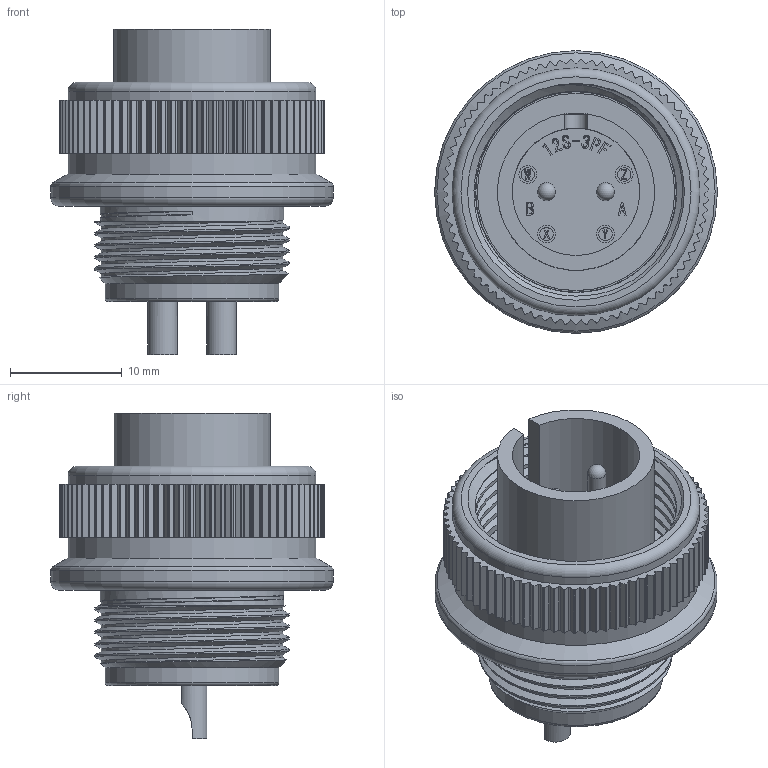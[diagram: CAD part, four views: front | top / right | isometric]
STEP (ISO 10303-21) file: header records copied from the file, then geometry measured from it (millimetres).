
FILE_DESCRIPTION (( 'STEP AP203' ), '1' );
FILE_NAME ('DMS3106A12S-3P(D190).STEP', '2021-02-02T09:47:28', ( '' ), ( '' ), 'SwSTEP 2.0', 'SolidWorks 2018', '' );
FILE_SCHEMA (( 'CONFIG_CONTROL_DESIGN' ));
Products named in the file (1): DMS3106A12S-3P(D190)
Bounding box: 25.35 x 25.35 x 29.22 mm (x, y, z)
Volume: 4632.3 mm3; surface area: 5319.7 mm2
Topology: 1 solids, 1 shells, 964 faces, 2720 edges, 1808 vertices
Faces by surface type: plane 411, cylinder 357, bspline 180, torus 8, cone 6, sphere 2
Full cylindrical faces by diameter (mm): 1.2 x4, 1.6 x4, 1.61 x2, 10.31 x1, 11.43 x1, 13.2 x1, 14.3 x1, 15.6 x1, 16.45 x1, 17.5 x1, 17.69 x1, 17.98 x1, 18.54 x1, 22.23 x2, 25.35 x1
Entity records: 38784 total; most frequent: CARTESIAN_POINT 14645, ORIENTED_EDGE 5322, DIRECTION 4561, EDGE_CURVE 2661, VERTEX_POINT 1787, VECTOR 1553, LINE 1553, AXIS2_PLACEMENT_3D 1504
